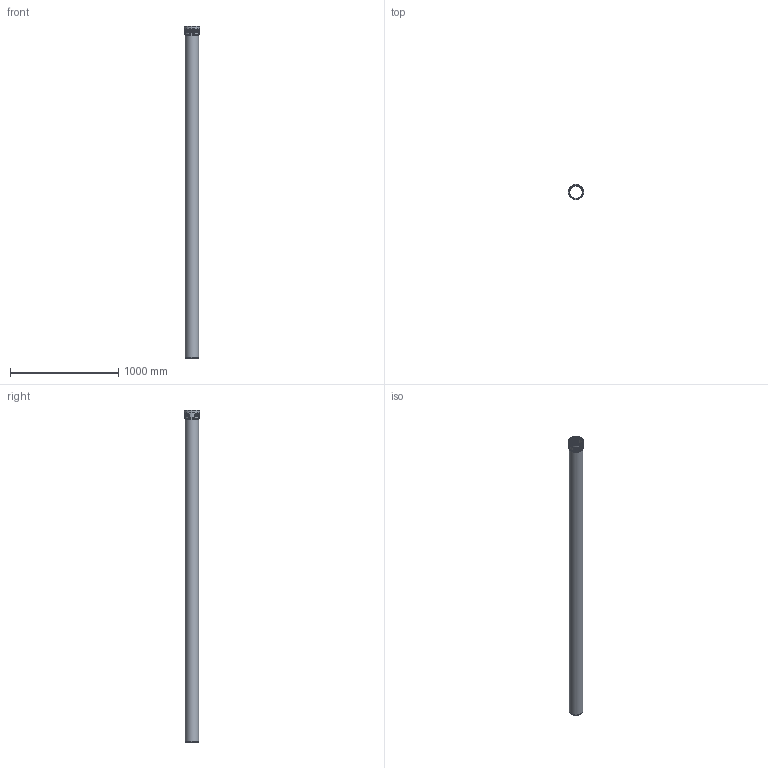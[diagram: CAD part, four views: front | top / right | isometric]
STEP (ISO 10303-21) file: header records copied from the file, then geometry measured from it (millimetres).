
FILE_DESCRIPTION(/* description */ (''),/* implementation_level */ '2;1');
FILE_NAME(/* name */ 'Z:\Geberit\Export\NewStep\390607.stp',/* time_stamp */ '2014-04-02T08:15:33+02:00',/* author */ ('ML'),/* organization */ (''),/* preprocessor_version */ 'ST-DEVELOPER v15.2',/* originating_system */ 'Autodesk Inventor 2014',/* authorisation */ '');
FILE_SCHEMA (('AUTOMOTIVE_DESIGN { 1 0 10303 214 3 1 1 }'));
Length unit declared in the file: millimetre
Products named in the file (3): 861672; 861586ohne; 390607
Bounding box: 144.95 x 144.95 x 3073.9 mm (x, y, z)
Volume: 4957896.7 mm3; surface area: 2369533.8 mm2
Topology: 2 solids, 2 shells, 47 faces, 104 edges, 71 vertices
Faces by surface type: torus 24, cylinder 11, plane 10, cone 2
Full cylindrical faces by diameter (mm): 116.8 x2, 125.2 x2, 126.2 x2, 130.4 x1, 134.6 x2, 136.55 x1, 144.95 x1
Entity records: 2003 total; most frequent: CARTESIAN_POINT 962, DIRECTION 182, ORIENTED_EDGE 174, AXIS2_PLACEMENT_3D 91, EDGE_CURVE 87, EDGE_LOOP 78, VERTEX_POINT 71, STYLED_ITEM 49
